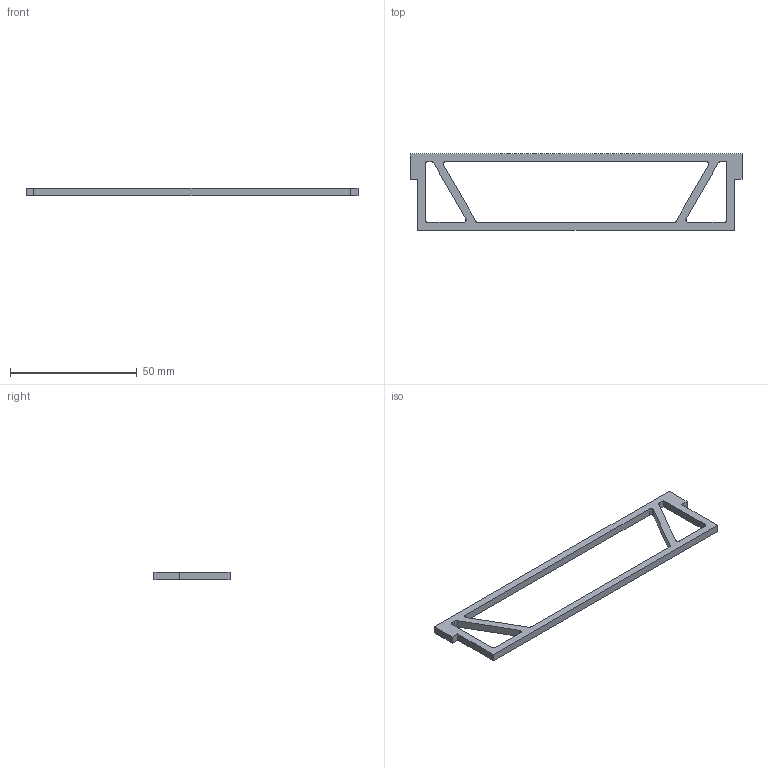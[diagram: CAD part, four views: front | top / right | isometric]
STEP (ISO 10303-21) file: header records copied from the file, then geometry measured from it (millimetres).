
FILE_DESCRIPTION(/* description */ (''),/* implementation_level */ '2;1');
FILE_NAME(/* name */ 'Stopper v13.step',/* time_stamp */ '2023-09-02T21:55:22+03:00',/* author */ (''),/* organization */ (''),/* preprocessor_version */ 'ST-DEVELOPER v20',/* originating_system */ 'Autodesk Translation Framework v12.9.0.99',/* authorisation */ '');
FILE_SCHEMA (('AUTOMOTIVE_DESIGN { 1 0 10303 214 3 1 1 }'));
Length unit declared in the file: millimetre
Products named in the file (1): Stopper
Bounding box: 131 x 30 x 3 mm (x, y, z)
Volume: 3371.6 mm3; surface area: 4341.1 mm2
Topology: 1 solids, 1 shells, 33 faces, 93 edges, 62 vertices
Faces by surface type: plane 22, cylinder 11
Entity records: 1121 total; most frequent: CARTESIAN_POINT 189, ORIENTED_EDGE 186, DIRECTION 183, EDGE_CURVE 93, LINE 71, VECTOR 71, VERTEX_POINT 62, AXIS2_PLACEMENT_3D 56
